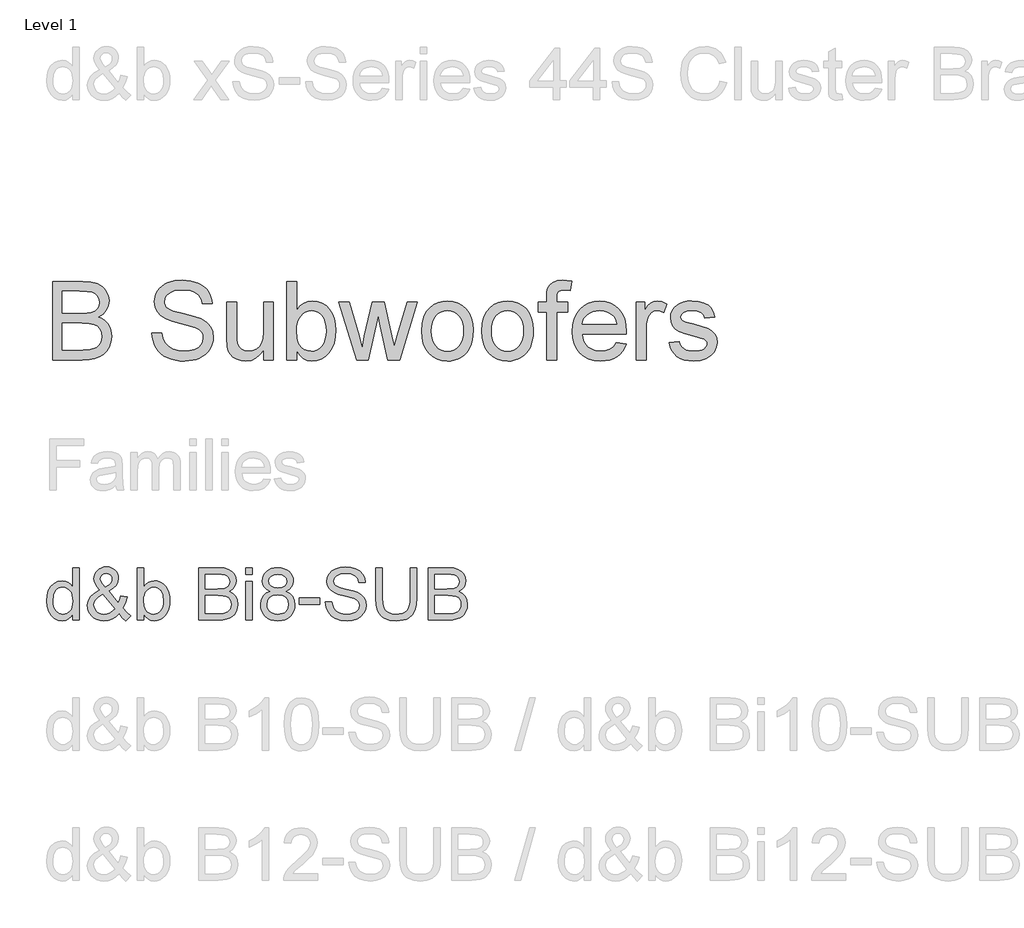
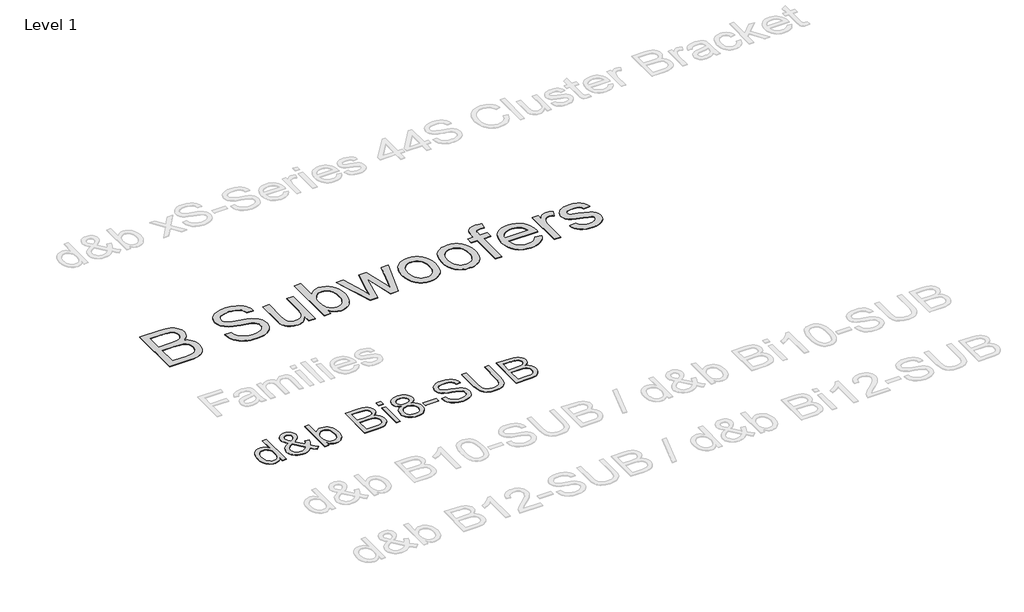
# One storey, part 5 of 55: 2 proxies.
"""IFC4 building model written with IfcOpenShell, lengths in millimetres."""

import ifcopenshell
import ifcopenshell.guid

model = None  # the IFC model being written
_history = None  # IfcOwnerHistory: only IFC2X3 demands one
_inside = {}  # id of a spatial element -> (the spatial element, [elements in it])
_under = {}  # id of a project, library or spatial element -> (it, [spatial elements below it])
_declared = {}  # id of a project -> (the project, [libraries it declares])
_typed = {}  # id of a type object -> (the type object, [elements of that type])
_made_of = {}  # id of a material, layer set ... -> (it, [elements and type objects made of it])


def new_model(schema):
    """Start an empty IFC model of exactly this schema.

    Asked for "IFC4X3", IfcOpenShell would pick the latest addendum, in which some entities
    have other attributes; the version numbers below select the first issue.
    IFC2X3 requires an IfcOwnerHistory on every rooted entity: one is made here for all.
    """
    global model, _history
    if schema == "IFC4X3":
        model = ifcopenshell.file(schema_version=(4, 3, 0, 0))
    else:
        model = ifcopenshell.file(schema=schema)
    _inside.clear()
    _under.clear()
    _declared.clear()
    _typed.clear()
    _made_of.clear()
    _history = None
    if model.schema == "IFC2X3":
        org = make("IfcOrganization", Name="unknown")
        user = make(
            "IfcPersonAndOrganization",
            ThePerson=make("IfcPerson", FamilyName="unknown"),
            TheOrganization=org,
        )
        app = make(
            "IfcApplication",
            ApplicationDeveloper=org,
            Version="unknown",
            ApplicationFullName="unknown",
            ApplicationIdentifier="unknown",
        )
        _history = make(
            "IfcOwnerHistory",
            OwningUser=user,
            OwningApplication=app,
            ChangeAction="ADDED",
            CreationDate=0,
        )
    return model


def make(cls, **values):
    """One entity of the class cls with the attributes given. An attribute that is None is left unset."""
    return model.create_entity(
        cls, **{name: value for name, value in values.items() if value is not None}
    )


def rooted(cls, **values):
    """An entity with a GlobalId (a new one), such as an element, a storey or a relation."""
    return make(cls, GlobalId=ifcopenshell.guid.new(), OwnerHistory=_history, **values)


def si_unit(unit_type, name, prefix=None):
    """IfcSIUnit, for example si_unit("LENGTHUNIT", "METRE", prefix="MILLI")."""
    return make("IfcSIUnit", UnitType=unit_type, Prefix=prefix, Name=name)


def assignment(units):
    """IfcUnitAssignment: the units of a project."""
    return None if units is None else make("IfcUnitAssignment", Units=units)


def point(xyz):
    """IfcCartesianPoint."""
    return None if xyz is None else make("IfcCartesianPoint", Coordinates=xyz)


def direction(xyz):
    """IfcDirection."""
    return None if xyz is None else make("IfcDirection", DirectionRatios=xyz)


def frame(location, z_axis=None, x_axis=None):
    """IfcAxis2Placement3D, a coordinate frame: its origin and axes. An axis left out is left unset."""
    return make(
        "IfcAxis2Placement3D",
        Location=point(location),
        Axis=direction(z_axis),
        RefDirection=direction(x_axis),
    )


def origin():
    """The frame at (0, 0, 0) with its axes left unset."""
    return frame((0.0, 0.0, 0.0))


def origin_with_axes():
    """The frame at (0, 0, 0) with the z axis (0, 0, 1) and the x axis (1, 0, 0) written out."""
    return frame((0.0, 0.0, 0.0), z_axis=(0.0, 0.0, 1.0), x_axis=(1.0, 0.0, 0.0))


def place(relative_to, where):
    """IfcLocalPlacement: puts the frame where relative to a parent placement (None: the world)."""
    return make(
        "IfcLocalPlacement", PlacementRelTo=relative_to, RelativePlacement=where
    )


def context(
    kind, dimensions, precision=None, world=None, true_north=None, identifier=None
):
    """IfcGeometricRepresentationContext, for example the 3D "Model" context."""
    return make(
        "IfcGeometricRepresentationContext",
        ContextIdentifier=identifier,
        ContextType=kind,
        CoordinateSpaceDimension=dimensions,
        Precision=precision,
        WorldCoordinateSystem=world,
        TrueNorth=true_north,
    )


def project(units=None, contexts=None):
    """IfcProject with its units and contexts."""
    return rooted(
        "IfcProject",
        Name="project",
        RepresentationContexts=contexts,
        UnitsInContext=assignment(units),
    )


def spatial(cls, under=None, at=None, **own):
    """A site, building, storey or space (cls), placed at a placement, below another one or the project."""
    s = rooted(cls, ObjectPlacement=at, **own)
    if under is not None:
        _under.setdefault(under.id(), (under, []))[1].append(s)
    return s


def polyline(points):
    """IfcPolyline through the points."""
    return make("IfcPolyline", Points=[point(p) for p in points])


def outline(outer, holes=None, kind="AREA"):
    """IfcArbitraryClosedProfileDef: a profile drawn as a closed curve; with holes, ...WithVoids."""
    if holes is None:
        return make("IfcArbitraryClosedProfileDef", ProfileType=kind, OuterCurve=outer)
    return make(
        "IfcArbitraryProfileDefWithVoids",
        ProfileType=kind,
        OuterCurve=outer,
        InnerCurves=holes,
    )


def extrude(swept, where, along, depth):
    """IfcExtrudedAreaSolid: the profile swept, set in the frame where, extruded along a direction by depth."""
    return make(
        "IfcExtrudedAreaSolid",
        SweptArea=swept,
        Position=where,
        ExtrudedDirection=direction(along),
        Depth=depth,
    )


def shape(context_of_items, identifier, shape_type, items):
    """IfcShapeRepresentation: the items that make up one representation, for example the "Body"."""
    return make(
        "IfcShapeRepresentation",
        ContextOfItems=context_of_items,
        RepresentationIdentifier=identifier,
        RepresentationType=shape_type,
        Items=items,
    )


def made_of(thing, what):
    """Note that an element or type object is made of a material, layer set ...; save() writes the relation."""
    if what is not None:
        _made_of.setdefault(what.id(), (what, []))[1].append(thing)
    return thing


def element(
    cls,
    number,
    at=None,
    inside=None,
    cuts=None,
    type_object=None,
    material=None,
    context=None,
    identifier="Body",
    shape_type=None,
    held_by="IfcProductDefinitionShape",
    body=None,
    shapes=None,
    **own,
):
    """One element of the class cls, such as IfcWall. Its Tag is "e" and its number.

    at: its placement. inside: the storey or other place that contains it. cuts: it is an
    opening in that element (IfcRelVoidsElement). A single representation is given by context,
    identifier, shape_type and body (its items); several are given by shapes. held_by: the class
    of the entity that holds the representations. save() writes the other relations.
    """
    e = rooted(cls, Tag="e%d" % number, ObjectPlacement=at, **own)
    if body is not None:
        shapes = [shape(context, identifier, shape_type, body)]
    if shapes is not None:
        e.Representation = make(held_by, Representations=shapes)
    if inside is not None:
        _inside.setdefault(inside.id(), (inside, []))[1].append(e)
    if cuts is not None:
        rooted(
            "IfcRelVoidsElement", RelatingBuildingElement=cuts, RelatedOpeningElement=e
        )
    if type_object is not None:
        _typed.setdefault(type_object.id(), (type_object, []))[1].append(e)
    return made_of(e, material)


def aggregate(whole, parts):
    """IfcRelAggregates: a whole, such as a stair, and the parts it consists of."""
    return rooted("IfcRelAggregates", RelatingObject=whole, RelatedObjects=parts)


def save(model, path):
    """Write the relations noted so far, then the file.

    IfcRelAggregates (storeys below a building ...), IfcRelContainedInSpatialStructure (elements
    in a storey), IfcRelDefinesByType, IfcRelAssociatesMaterial and IfcRelDeclares: one each for
    every whole, place, type object, material and project.
    """
    for whole, parts in _under.values():
        aggregate(whole, parts)
    for where, things in _inside.values():
        rooted(
            "IfcRelContainedInSpatialStructure",
            RelatedElements=things,
            RelatingStructure=where,
        )
    for kind, things in _typed.values():
        rooted("IfcRelDefinesByType", RelatedObjects=things, RelatingType=kind)
    for what, things in _made_of.values():
        rooted("IfcRelAssociatesMaterial", RelatedObjects=things, RelatingMaterial=what)
    for by, libraries in _declared.values():
        rooted("IfcRelDeclares", RelatingContext=by, RelatedDefinitions=libraries)
    model.write(path)


model = new_model("IFC4")

# Units and contexts
model_context = context("Model", 3, world=origin())
ifc_project = project(units=[si_unit("LENGTHUNIT", "METRE", prefix="MILLI")], contexts=[model_context])

# Site, building, storey
site = spatial("IfcSite", under=ifc_project)
building = spatial("IfcBuilding", under=site)
storey = spatial("IfcBuildingStorey", under=building, Name="Level 1", Elevation=0.0)

# Proxies
placement = place(None, origin())
element("IfcBuildingElementProxy", 1, Name="400mm Arial", ObjectType="400mm Arial", at=placement, inside=storey, context=model_context, shape_type="SweptSolid", body=[
    extrude(outline(polyline([(-20879.8211974, -36148.6945164), (-20879.8211974, -36101.3113154), (-20894.8491769, -36124.7883181), (-20913.0532043, -36141.5576057), (-20934.4332796, -36151.6191783), (-20958.9894028, -36154.9730358), (-20991.4611202, -36150.1169935), (-21021.1859854, -36135.5488665), (-21046.3491139, -36112.2864616), (-21065.1356211, -36081.3475858), (-21076.8342686, -36043.9830379), (-21080.7338177, -36001.4436165), (-21077.1408369, -35959.4314926), (-21066.3618945, -35921.4905962), (-21048.4092531, -35889.7791682), (-21023.2951755, -35866.4554497), (-20992.9203855, -35852.1080519), (-20959.1856065, -35847.325586), (-20934.6110892, -35850.7468885), (-20912.8815261, -35861.0107962), (-20894.4629008, -35876.7438829), (-20879.8211974, -35896.5727224), (-20879.8211974, -35746.8692758), (-20829.5930424, -35746.8692758), (-20829.5930424, -36148.6945164), (-20879.8211974, -36148.6945164)]), holes=[polyline([(-21030.5056627, -36001.2474128), (-21029.089317, -36025.6042665), (-21024.8402799, -36046.6808392), (-21017.7585515, -36064.4771307), (-21007.8441318, -36078.9931411), (-20983.1469871, -36098.3069458), (-20969.2717046, -36103.135397), (-20954.3786151, -36104.7448807), (-20939.415015, -36103.2089734), (-20925.6225058, -36098.6012514), (-20901.5507606, -36080.1703635), (-20892.0440767, -36066.2613584), (-20885.2535882, -36049.1088603), (-20879.8211974, -36005.0733855), (-20885.3516901, -35956.9298951), (-20892.2648059, -35938.3947739), (-20901.9431681, -35923.5507354), (-20913.6448812, -35912.1770504), (-20926.6280499, -35904.0529896), (-20940.8926743, -35899.1785532), (-20956.4387543, -35897.5537411), (-20971.6261493, -35899.1141738), (-20985.5014319, -35903.7954722), (-20998.064602, -35911.5976362), (-21009.3156597, -35922.5206658), (-21018.586286, -35936.8036843), (-21025.2081619, -35954.6858149), (-21030.5056627, -36001.2474128)])]), origin_with_axes(), (0.0, 0.0, 1.0), 5.0),
    extrude(outline(polyline([(-20523.809528, -36099.0549725), (-20549.3405384, -36123.5191252), (-20577.0788409, -36140.99352), (-20607.0734862, -36151.4781569), (-20639.3735254, -36154.9730358), (-20668.6814577, -36152.3855991), (-20694.8010793, -36144.623289), (-20717.7323904, -36131.6861055), (-20737.4753908, -36113.5740486), (-20750.308341, -36096.2038871), (-20759.4747341, -36077.8404442), (-20764.9745699, -36058.4837198), (-20766.8078485, -36038.1337141), (-20760.9094739, -36002.9396699), (-20743.2143499, -35971.3263438), (-20713.796053, -35943.3182613), (-20672.7281596, -35918.9399477), (-20694.6416638, -35890.5885086), (-20707.7995765, -35868.1231814), (-20714.3846642, -35848.9442668), (-20716.5796934, -35830.4520651), (-20714.8506481, -35812.8979626), (-20709.6635119, -35796.5333452), (-20701.018285, -35781.3582129), (-20688.9149674, -35767.3725657), (-20674.1935562, -35755.6555241), (-20657.6940487, -35747.2862088), (-20639.4164449, -35742.2646195), (-20619.3607448, -35740.5907564), (-20600.212487, -35742.1910431), (-20582.8913764, -35746.9919032), (-20567.397413, -35754.9933366), (-20553.7305969, -35766.1953433), (-20542.5715097, -35779.6414302), (-20534.6007332, -35794.3751041), (-20529.8182672, -35810.396365), (-20528.2241119, -35827.7052129), (-20532.9452642, -35855.68877), (-20547.108721, -35881.563137), (-20570.7144823, -35905.3283139), (-20603.7625482, -35926.9843007), (-20531.069066, -36017.5323224), (-20518.6837055, -35991.6579554), (-20509.3885538, -35961.9085647), (-20459.1603987, -35972.7978718), (-20474.6114425, -36019.3226815), (-20494.6732739, -36055.4977443), (-20466.1256311, -36088.8033276), (-20434.0463211, -36116.3209009), (-20471.7174374, -36154.9730358), (-20497.3465498, -36131.52669), (-20523.809528, -36099.0549725)]), holes=[polyline([(-20557.4584678, -36062.8553842), (-20647.1235727, -35950.9211558), (-20681.3733865, -35972.7733463), (-20702.305872, -35993.0068561), (-20713.0112381, -36012.3329235), (-20716.5796934, -36031.4627873), (-20711.6991256, -36055.1543878), (-20697.0574222, -36079.7289051), (-20686.2784798, -36090.6733944), (-20673.4639236, -36098.4908868), (-20658.6137537, -36103.1813823), (-20641.7279702, -36104.7448807), (-20619.0051256, -36101.8263502), (-20595.5710425, -36093.0707588), (-20574.1480476, -36079.6798541), (-20557.4584678, -36062.8553842)]), polyline([(-20629.1709314, -35895.2973981), (-20602.9041569, -35878.6323438), (-20587.8700461, -35864.1500559), (-20580.8067117, -35850.0601755), (-20578.452267, -35834.5723435), (-20581.5547385, -35817.0243723), (-20590.862153, -35803.0325938), (-20604.829406, -35793.8723321), (-20621.9113933, -35790.8189115), (-20639.3612626, -35793.8478066), (-20653.6473468, -35802.9344919), (-20663.1754905, -35816.3867102), (-20666.3515384, -35832.5122043), (-20662.0350563, -35850.9063041), (-20648.9875082, -35871.360543), (-20629.1709314, -35895.2973981)])]), origin_with_axes(), (0.0, 0.0, 1.0), 5.0),
    extrude(outline(polyline([(-20333.590011, -36148.6945164), (-20383.8181661, -36148.6945164), (-20383.8181661, -35746.8692758), (-20333.590011, -35746.8692758), (-20333.590011, -35895.8860093), (-20317.0721094, -35874.6408241), (-20298.4204923, -35859.4656918), (-20277.6351595, -35850.3606124), (-20254.7161112, -35847.325586), (-20228.8417442, -35850.0601755), (-20204.3898543, -35858.263944), (-20182.758393, -35871.4218567), (-20165.3453119, -35889.0188788), (-20151.6968898, -35910.883332), (-20141.3594058, -35936.8435381), (-20134.8478945, -35965.8203766), (-20132.6773907, -35996.734727), (-20134.9245365, -36032.4070178), (-20141.6659741, -36063.7873519), (-20152.9017034, -36090.8757295), (-20168.6317244, -36113.6721505), (-20187.5132678, -36131.7412878), (-20208.2035643, -36144.6478145), (-20230.702614, -36152.3917305), (-20255.0104168, -36154.9730358), (-20278.6836232, -36151.6437038), (-20299.671291, -36141.6557076), (-20317.9734203, -36125.0090473), (-20333.590011, -36101.7037229), (-20333.590011, -36148.6945164)]), holes=[polyline([(-20333.590011, -35999.0891717), (-20330.1564457, -36040.9786682), (-20319.8557498, -36069.3301073), (-20307.6849872, -36084.8240707), (-20293.5399244, -36095.8911874), (-20277.4205617, -36102.5314574), (-20259.3268989, -36104.7448807), (-20244.3050508, -36103.1139372), (-20230.3377977, -36098.2211067), (-20217.4251396, -36090.0663891), (-20205.5670767, -36078.6497845), (-20195.6526569, -36064.0019498), (-20188.5709285, -36046.1535416), (-20184.3218914, -36025.1045601), (-20182.9055458, -36000.8550053), (-20188.3379366, -35954.8942814), (-20195.1284251, -35937.1010555), (-20204.6351089, -35922.7659205), (-20216.0670419, -35911.735592), (-20228.6332778, -35903.8567859), (-20242.3338164, -35899.1295023), (-20257.1686579, -35897.5537411), (-20272.190506, -35899.1846846), (-20286.1577591, -35904.0775151), (-20299.0704171, -35912.2322327), (-20310.9284801, -35923.6488372), (-20320.8428999, -35938.1495192), (-20327.9246283, -35955.556469), (-20332.1736653, -35975.8696865), (-20333.590011, -35999.0891717)])]), origin_with_axes(), (0.0, 0.0, 1.0), 5.0),
    extrude(outline(polyline([(-19912.9292122, -36148.6945164), (-19912.9292122, -35746.8692758), (-19759.5959966, -35746.8692758), (-19717.4244573, -35749.8245945), (-19684.4990187, -35758.6905506), (-19659.2623138, -35773.6878733), (-19640.1569755, -35795.0372917), (-19628.1272343, -35820.1513693), (-19624.1173206, -35846.4426692), (-19627.4895722, -35870.6370417), (-19637.606327, -35893.3844118), (-19654.5411616, -35913.2868277), (-19678.3676521, -35928.946338), (-19649.9058484, -35943.8087706), (-19628.875261, -35966.4212506), (-19615.8890266, -35995.2877244), (-19611.5602818, -36028.9121388), (-19614.5156005, -36056.9324841), (-19623.3815566, -36082.9172157), (-19636.6130457, -36105.0146609), (-19652.6649634, -36121.3731469), (-19672.3221247, -36133.2189472), (-19696.3693444, -36141.7783349), (-19725.5914376, -36146.965471), (-19760.773219, -36148.6945164), (-19912.9292122, -36148.6945164)]), holes=[polyline([(-19862.7010572, -36098.4663614), (-19759.6940985, -36098.4663614), (-19722.4153897, -36096.504324), (-19690.87564, -36085.5659661), (-19679.2996198, -36076.1359242), (-19669.9799426, -36063.2477917), (-19663.8363133, -36047.4779168), (-19661.7884369, -36029.4026481), (-19664.1919326, -36008.4088489), (-19671.4024197, -35990.3581057), (-19683.9962466, -35976.2436998), (-19702.5497619, -35967.0589127), (-19728.8287991, -35962.0189293), (-19764.5991918, -35960.3389349), (-19862.7010572, -35960.3389349), (-19862.7010572, -36098.4663614)]), polyline([(-19862.7010572, -35910.1107798), (-19770.975813, -35910.1107798), (-19717.4121945, -35905.7942977), (-19698.6624755, -35898.3508187), (-19685.1857318, -35887.2039943), (-19677.0555397, -35872.5255026), (-19674.3454756, -35854.4870222), (-19676.8715987, -35836.9758392), (-19684.4499678, -35821.7209991), (-19696.7372264, -35809.8138852), (-19713.3900181, -35802.3458807), (-19738.945554, -35798.4095434), (-19777.9410455, -35797.0974309), (-19862.7010572, -35797.0974309), (-19862.7010572, -35910.1107798)])]), origin_with_axes(), (0.0, 0.0, 1.0), 5.0),
    extrude(outline(polyline([(-19548.7750879, -36148.6945164), (-19548.7750879, -35853.6041054), (-19498.5469329, -35853.6041054), (-19498.5469329, -36148.6945164), (-19548.7750879, -36148.6945164)])), origin_with_axes(), (0.0, 0.0, 1.0), 5.0),
    extrude(outline(polyline([(-19548.7750879, -35797.0974309), (-19548.7750879, -35746.8692758), (-19498.5469329, -35746.8692758), (-19498.5469329, -35797.0974309), (-19548.7750879, -35797.0974309)])), origin_with_axes(), (0.0, 0.0, 1.0), 5.0),
    extrude(outline(polyline([(-19362.5777475, -35927.3767081), (-19389.4699213, -35914.1329563), (-19408.3422677, -35896.1803149), (-19419.4890921, -35873.886666), (-19423.2047003, -35847.6198916), (-19421.1813493, -35827.1349958), (-19415.1112964, -35808.35462), (-19404.9945415, -35791.278764), (-19390.8310847, -35775.907428), (-19373.3015076, -35763.2032364), (-19353.086392, -35754.1288139), (-19330.1857378, -35748.6841603), (-19304.599545, -35746.8692758), (-19278.8907249, -35748.7270799), (-19255.8183925, -35754.3004921), (-19235.3825476, -35763.5895125), (-19217.5831904, -35776.594141), (-19203.1622162, -35792.265914), (-19192.8615203, -35809.5563678), (-19186.6811028, -35828.4655024), (-19184.6209637, -35848.9933177), (-19188.2875209, -35874.4139636), (-19199.2871925, -35896.3274677), (-19217.742606, -35914.1697445), (-19243.7763885, -35927.3767081), (-19212.8620382, -35943.3059985), (-19190.3599228, -35966.7646071), (-19176.6379244, -35996.6243624), (-19172.0639249, -36031.7570929), (-19174.3325305, -36056.8098568), (-19181.1383474, -36079.777956), (-19192.4813756, -36100.6613906), (-19208.3616151, -36119.4601605), (-19227.9452, -36134.9970435), (-19250.3982644, -36146.094817), (-19275.7208084, -36152.7534811), (-19303.912832, -36154.9730358), (-19332.1048555, -36152.7442841), (-19357.4273995, -36146.0580288), (-19379.880464, -36134.91427), (-19399.4640488, -36119.3130077), (-19415.3442883, -36100.3824134), (-19426.6873165, -36079.2506585), (-19433.4931334, -36055.9177429), (-19435.761739, -36030.3836668), (-19431.0037986, -35993.8897729), (-19416.7299771, -35963.8706021), (-19393.6760388, -35941.3562239), (-19362.5777475, -35927.3767081)]), holes=[polyline([(-19385.533584, -36028.6178332), (-19383.4366566, -36047.8335361), (-19377.1458745, -36066.4361023), (-19365.5330661, -36082.6596983), (-19347.4700602, -36094.7384905), (-19325.8385989, -36102.2432832), (-19303.5204245, -36104.7448807), (-19269.3319244, -36099.4841682), (-19255.4382477, -36092.9082775), (-19243.6782866, -36083.7020306), (-19227.6386316, -36059.8019637), (-19222.29208, -36030.187463), (-19227.8103099, -36000.0701904), (-19244.3649997, -35975.6428259), (-19256.4437918, -35966.2005214), (-19270.6072487, -35959.4560181), (-19305.1881562, -35954.0604155), (-19338.8984097, -35959.3824417), (-19352.6357365, -35966.0349745), (-19364.2945301, -35975.3485203), (-19380.2238205, -35999.3099009), (-19385.533584, -36028.6178332)]), polyline([(-19372.9765452, -35849.0914196), (-19368.525173, -35871.0171865), (-19355.1710566, -35888.5283694), (-19333.3066034, -35900.0062877), (-19303.3242208, -35903.8322604), (-19274.0408139, -35900.0308132), (-19252.5074545, -35888.6264713), (-19239.2637027, -35871.7038995), (-19234.8491187, -35851.3477625), (-19239.4108555, -35830.2190732), (-19253.0960657, -35812.7446784), (-19274.9237307, -35801.0092428), (-19303.912832, -35797.0974309), (-19333.0858742, -35800.9234037), (-19354.876751, -35812.4013219), (-19368.4515966, -35829.2257918), (-19372.9765452, -35849.0914196)])]), origin_with_axes(), (0.0, 0.0, 1.0), 5.0),
    extrude(outline(polyline([(-19140.671328, -36029.4026481), (-19140.671328, -35979.174493), (-18983.7083434, -35979.174493), (-18983.7083434, -36029.4026481), (-19140.671328, -36029.4026481)])), origin_with_axes(), (0.0, 0.0, 1.0), 5.0),
    extrude(outline(polyline([(-18939.7587077, -36010.56709), (-18889.5305526, -36010.56709), (-18883.767068, -36038.4402825), (-18873.3437448, -36060.844296), (-18857.0833606, -36078.6252591), (-18833.8086931, -36092.6293004), (-18805.3591521, -36101.7159856), (-18773.5741477, -36104.7448807), (-18745.5905906, -36102.4517496), (-18721.0896497, -36095.5723563), (-18701.2362847, -36084.6830493), (-18687.1954552, -36070.3601769), (-18678.844534, -36053.9158517), (-18676.0608935, -36036.6621862), (-18678.1455582, -36019.849979), (-18684.3995521, -36005.3186402), (-18697.1037436, -35992.9210169), (-18718.5390012, -35982.5099565), (-18791.6739419, -35963.3310418), (-18839.6825422, -35950.639113), (-18870.4006888, -35938.5603208), (-18895.4044018, -35921.6622745), (-18913.1240512, -35901.1835101), (-18923.6822645, -35877.565486), (-18927.2016689, -35851.2496606), (-18922.8483986, -35821.8313637), (-18909.7885878, -35794.3996296), (-18888.3655929, -35771.1494875), (-18858.9227706, -35754.2759667), (-18823.5815736, -35744.012059), (-18784.4634548, -35740.5907564), (-18742.0834489, -35744.1714745), (-18705.0009438, -35754.9136288), (-18674.5403146, -35772.59649), (-18652.0259365, -35796.999329), (-18637.7766406, -35826.6015669), (-18632.1112578, -35859.8826247), (-18682.3394129, -35859.8826247), (-18691.5609883, -35829.9125049), (-18699.9241723, -35818.0544419), (-18710.7889539, -35808.2810436), (-18740.8326501, -35795.1844445), (-18782.5014175, -35790.8189115), (-18825.1512034, -35795.1353936), (-18841.4545072, -35800.5309962), (-18854.4100848, -35808.0848398), (-18871.3326566, -35827.1411272), (-18876.9735138, -35849.7781326), (-18872.9758628, -35869.0796746), (-18860.9829098, -35884.6042948), (-18832.6314707, -35898.4857088), (-18778.9697503, -35912.6614283), (-18723.5912473, -35926.1259093), (-18690.0894603, -35937.8736077), (-18661.4559783, -35956.0960292), (-18641.479986, -35978.5858819), (-18629.7445503, -36005.097911), (-18625.8327384, -36035.3868619), (-18630.3331615, -36066.3502632), (-18643.8344307, -36095.4742545), (-18665.7847231, -36120.5392811), (-18695.6322157, -36139.3257883), (-18731.5252357, -36151.0612239), (-18771.6121104, -36154.9730358), (-18820.8224586, -36150.7546556), (-18861.3262663, -36138.099515), (-18893.5895173, -36116.958563), (-18918.0781954, -36087.2827487), (-18933.7990193, -36051.1322113), (-18939.7587077, -36010.56709)])), origin_with_axes(), (0.0, 0.0, 1.0), 5.0),
    extrude(outline(polyline([(-18286.7926917, -35746.8692758), (-18236.5645366, -35746.8692758), (-18236.5645366, -35978.6839837), (-18239.9735764, -36032.9711035), (-18250.2006959, -36074.7747609), (-18258.3860703, -36091.7279895), (-18269.3060342, -36107.0257491), (-18299.3497305, -36132.6548614), (-18318.4918569, -36142.4190627), (-18340.4053611, -36149.3934922), (-18392.5465026, -36154.9730358), (-18443.5472098, -36150.1169935), (-18484.3207976, -36135.5488665), (-18500.8754874, -36124.7484642), (-18514.8795287, -36111.7714268), (-18526.3329215, -36096.6177543), (-18535.2356658, -36079.2874467), (-18546.6767958, -36035.7179557), (-18550.4905058, -35978.6839837), (-18550.4905058, -35746.8692758), (-18500.2623508, -35746.8692758), (-18500.2623508, -35976.9181501), (-18497.7852787, -36022.057271), (-18490.3540624, -36053.4866561), (-18476.8895813, -36075.2530075), (-18456.3127151, -36091.403027), (-18429.4818549, -36101.4094173), (-18397.2553921, -36104.7448807), (-18369.572272, -36103.0955431), (-18346.1688457, -36098.1475303), (-18327.0451133, -36089.9008422), (-18312.2010748, -36078.3554789), (-18301.0849072, -36062.1196202), (-18293.1447875, -36039.8014459), (-18288.3807156, -36011.4009558), (-18286.7926917, -35976.9181501), (-18286.7926917, -35746.8692758)])), origin_with_axes(), (0.0, 0.0, 1.0), 5.0),
    extrude(outline(polyline([(-18148.6652652, -36148.6945164), (-18148.6652652, -35746.8692758), (-17995.3320496, -35746.8692758), (-17953.1605103, -35749.8245945), (-17920.2350717, -35758.6905506), (-17894.9983668, -35773.6878733), (-17875.8930285, -35795.0372917), (-17863.8632873, -35820.1513693), (-17859.8533736, -35846.4426692), (-17863.2256252, -35870.6370417), (-17873.34238, -35893.3844118), (-17890.2772146, -35913.2868277), (-17914.1037051, -35928.946338), (-17885.6419014, -35943.8087706), (-17864.611314, -35966.4212506), (-17851.6250796, -35995.2877244), (-17847.2963348, -36028.9121388), (-17850.2516535, -36056.9324841), (-17859.1176096, -36082.9172157), (-17872.3490987, -36105.0146609), (-17888.4010164, -36121.3731469), (-17908.0581777, -36133.2189472), (-17932.1053974, -36141.7783349), (-17961.3274906, -36146.965471), (-17996.509272, -36148.6945164), (-18148.6652652, -36148.6945164)]), holes=[polyline([(-18098.4371102, -36098.4663614), (-17995.4301515, -36098.4663614), (-17958.1514427, -36096.504324), (-17926.6116929, -36085.5659661), (-17915.0356728, -36076.1359242), (-17905.7159956, -36063.2477917), (-17899.5723663, -36047.4779168), (-17897.5244899, -36029.4026481), (-17899.9279856, -36008.4088489), (-17907.1384727, -35990.3581057), (-17919.7322996, -35976.2436998), (-17938.2858149, -35967.0589127), (-17964.5648521, -35962.0189293), (-18000.3352448, -35960.3389349), (-18098.4371102, -35960.3389349), (-18098.4371102, -36098.4663614)]), polyline([(-18098.4371102, -35910.1107798), (-18006.711866, -35910.1107798), (-17953.1482475, -35905.7942977), (-17934.3985285, -35898.3508187), (-17920.9217848, -35887.2039943), (-17912.7915927, -35872.5255026), (-17910.0815286, -35854.4870222), (-17912.6076517, -35836.9758392), (-17920.1860208, -35821.7209991), (-17932.4732794, -35809.8138852), (-17949.1260711, -35802.3458807), (-17974.681607, -35798.4095434), (-18013.6770985, -35797.0974309), (-18098.4371102, -35797.0974309), (-18098.4371102, -35910.1107798)])]), origin_with_axes(), (0.0, 0.0, 1.0), 5.0),
])
element("IfcBuildingElementProxy", 2, Name="600mm Arial", ObjectType="600mm Arial", at=placement, inside=storey, context=model_context, shape_type="SweptSolid", body=[
    extrude(outline(polyline([(-21033.6449223, -34148.6945164), (-21033.6449223, -33545.9566555), (-20803.645099, -33545.9566555), (-20740.3877899, -33550.3896336), (-20690.999632, -33563.6885677), (-20670.9224722, -33573.7455417), (-20653.1445747, -33586.1845517), (-20637.6659398, -33601.0055976), (-20624.4865673, -33618.2086794), (-20606.4419554, -33655.8797957), (-20600.4270848, -33695.3167456), (-20605.4854623, -33731.6083044), (-20620.6605946, -33765.7293594), (-20646.0628463, -33795.5829834), (-20681.8025822, -33819.0722487), (-20659.0628763, -33828.7659393), (-20639.1098766, -33841.3658977), (-20621.943583, -33856.8721238), (-20607.5639955, -33875.2846176), (-20596.2010404, -33896.0423592), (-20588.0846439, -33918.5843284), (-20583.214806, -33942.9105254), (-20581.5915267, -33969.02095), (-20586.0245047, -34011.0514679), (-20599.3234388, -34050.0285653), (-20619.1706725, -34083.1747331), (-20643.2485491, -34107.7124622), (-20672.734291, -34125.4811625), (-20708.8051206, -34138.3202442), (-20752.6382603, -34146.1009484), (-20805.4109325, -34148.6945164), (-21033.6449223, -34148.6945164)]), holes=[polyline([(-20958.3026897, -33790.8189115), (-20820.7148235, -33790.8189115), (-20772.5958586, -33789.2002307), (-20740.3693958, -33784.3441884), (-20712.2448173, -33773.1789699), (-20692.0297016, -33756.4587332), (-20679.8344135, -33734.4409958), (-20675.7693174, -33707.383275), (-20679.558502, -33681.1165006), (-20690.9260556, -33658.2342405), (-20709.3569436, -33640.3735696), (-20734.3361311, -33629.1715628), (-20772.669435, -33623.2670568), (-20831.1626722, -33621.2988881), (-20958.3026897, -33621.2988881), (-20958.3026897, -33790.8189115)]), polyline([(-20958.3026897, -34073.3522838), (-20803.7922518, -34073.3522838), (-20747.8741885, -34070.4092279), (-20721.9201137, -34063.8793224), (-20700.5645639, -34054.0016909), (-20683.2005337, -34039.8566282), (-20669.2210179, -34020.5244293), (-20660.0055739, -33996.869617), (-20656.9337593, -33969.756714), (-20660.5390028, -33938.2660152), (-20671.3547335, -33911.1899003), (-20690.2454739, -33890.0182915), (-20718.0757469, -33876.2411108), (-20757.4943027, -33868.6811358), (-20811.1498917, -33866.1611441), (-20958.3026897, -33866.1611441), (-20958.3026897, -34073.3522838)])]), origin_with_axes(), (0.0, 0.0, 1.0), 5.0),
    extrude(outline(polyline([(-20270.8048171, -33941.5033767), (-20195.4625845, -33941.5033767), (-20186.8173576, -33983.3131655), (-20171.1823729, -34016.9191858), (-20146.7917966, -34043.5906304), (-20111.8797952, -34064.5966923), (-20069.2054838, -34078.2267203), (-20021.5279772, -34082.7700629), (-19979.5526416, -34079.3303662), (-19942.8012302, -34069.0112763), (-19913.0211827, -34052.6773157), (-19891.9599385, -34031.1930072), (-19879.4335566, -34006.5265194), (-19875.2580959, -33980.646021), (-19878.3850929, -33955.4277103), (-19887.7660838, -33933.630702), (-19906.8223711, -33915.0342672), (-19938.9752575, -33899.4176765), (-20048.6776685, -33870.6493045), (-20120.690569, -33851.6114112), (-20166.7677889, -33833.493223), (-20204.2733583, -33808.1461535), (-20230.8528325, -33777.4280069), (-20246.6901524, -33742.0009708), (-20251.969259, -33702.5272327), (-20250.3367826, -33680.0910295), (-20245.4393536, -33658.3997874), (-20237.2769718, -33637.4535063), (-20225.8496373, -33617.2521862), (-20211.2861089, -33598.6189631), (-20193.7151451, -33582.3769731), (-20173.136746, -33568.5262159), (-20149.5509115, -33557.0666918), (-20096.539116, -33541.6708303), (-20037.8619378, -33536.5388765), (-19974.291929, -33541.9099536), (-19918.6681714, -33558.023185), (-19894.3327774, -33570.0253351), (-19872.9772276, -33584.5474768), (-19854.6015219, -33601.5896103), (-19839.2056604, -33621.1517353), (-19826.9092047, -33642.663635), (-19817.8317165, -33665.5550922), (-19811.9731957, -33689.8261068), (-19809.3336424, -33715.4766789), (-19884.675875, -33715.4766789), (-19889.7158583, -33691.4355905), (-19898.508238, -33670.5214991), (-19911.0530141, -33652.7344046), (-19927.3501865, -33638.0743071), (-19947.7032578, -33626.614783), (-19972.4157309, -33618.4294086), (-20001.4876055, -33613.5181839), (-20034.9188818, -33611.8811091), (-20069.4170159, -33613.4997898), (-20098.8935608, -33618.3558322), (-20123.3485164, -33626.4492361), (-20142.7818828, -33637.7800015), (-20157.5891331, -33651.4008324), (-20168.1657405, -33666.3644326), (-20174.5117049, -33682.670802), (-20176.6270264, -33700.3199407), (-20175.1279073, -33715.5042701), (-20170.6305499, -33729.2722537), (-20163.1349542, -33741.6238917), (-20152.6411203, -33752.559184), (-20136.1232187, -33762.9150622), (-20110.1139617, -33773.3813049), (-20029.6213811, -33794.6448843), (-19946.5536266, -33814.8416058), (-19896.3009461, -33832.4631534), (-19853.3507231, -33859.7967856), (-19836.7454496, -33875.8640318), (-19823.3867346, -33893.5315646), (-19813.1182284, -33912.7074136), (-19805.7835811, -33933.2996083), (-19799.9158633, -33978.7330347), (-19801.603522, -34002.300475), (-19806.6664979, -34025.1781365), (-19815.1047912, -34047.3660194), (-19826.9184018, -34068.8641235), (-19841.900396, -34088.8401158), (-19859.8438403, -34106.4616634), (-19880.7487347, -34121.7287662), (-19904.6150791, -34134.6414242), (-19930.7484964, -34144.9099304), (-19958.4546091, -34152.2445777), (-20018.5849213, -34158.1122955), (-20057.1251588, -34156.5304029), (-20092.4004436, -34151.7847252), (-20124.4107757, -34143.8752623), (-20153.1561551, -34132.8020142), (-20178.8113257, -34118.5465869), (-20201.5510316, -34101.0905863), (-20221.3752726, -34080.4340122), (-20238.2840488, -34056.5768648), (-20251.9048796, -34030.2916963), (-20261.8652847, -34002.3510587), (-20268.1652638, -33972.7549522), (-20270.8048171, -33941.5033767)])), origin_with_axes(), (0.0, 0.0, 1.0), 5.0),
    extrude(outline(polyline([(-19413.7869212, -34148.6945164), (-19413.7869212, -34072.6165198), (-19441.046977, -34110.0209217), (-19472.7951932, -34136.7383516), (-19509.0315697, -34152.7688095), (-19549.7561066, -34158.1122955), (-19586.4523356, -34154.3598992), (-19620.6101789, -34143.1027101), (-19649.2681863, -34126.1801383), (-19669.4649078, -34105.4315938), (-19683.0581476, -34080.2316771), (-19691.9057095, -34049.9549889), (-19696.3202935, -33979.910257), (-19696.3202935, -33706.0588998), (-19620.9780609, -33706.0588998), (-19620.9780609, -33944.4464327), (-19619.8376267, -33992.1239393), (-19616.4163241, -34021.2601933), (-19605.4350466, -34046.8831743), (-19586.6178825, -34066.3625259), (-19561.2156308, -34078.6681786), (-19530.4790901, -34082.7700629), (-19497.9767158, -34078.5762081), (-19467.5712689, -34065.9946439), (-19442.5001109, -34046.1841985), (-19426.0006034, -34020.3037001), (-19416.8403417, -33984.8582699), (-19413.7869212, -33936.3530288), (-19413.7869212, -33706.0588998), (-19338.4446886, -33706.0588998), (-19338.4446886, -34148.6945164), (-19413.7869212, -34148.6945164)])), origin_with_axes(), (0.0, 0.0, 1.0), 5.0),
    extrude(outline(polyline([(-19159.5068861, -34148.6945164), (-19234.8491187, -34148.6945164), (-19234.8491187, -33545.9566555), (-19159.5068861, -33545.9566555), (-19159.5068861, -33769.4817558), (-19134.7300337, -33737.613978), (-19106.752608, -33714.8512795), (-19075.5746089, -33701.1936604), (-19041.1960365, -33696.6411208), (-19002.384486, -33700.743005), (-18965.7066511, -33713.0486577), (-18933.2594591, -33732.7855268), (-18907.1398374, -33759.1810599), (-18886.6672044, -33791.9777398), (-18871.1609783, -33830.918049), (-18861.3937113, -33874.3833067), (-18858.1379557, -33920.7548322), (-18861.5086744, -33974.2632684), (-18871.6208308, -34021.3337697), (-18888.4744247, -34061.9663361), (-18912.0694562, -34096.1609675), (-18940.3917713, -34123.2646735), (-18971.4272161, -34142.6244635), (-19005.1757906, -34154.2403375), (-19041.6374949, -34158.1122955), (-19077.1473044, -34153.1182974), (-19108.6288062, -34138.1363032), (-19136.0820001, -34113.1663127), (-19159.5068861, -34078.2083262), (-19159.5068861, -34148.6945164)]), holes=[polyline([(-19159.5068861, -33924.2864994), (-19154.3565382, -33987.1207441), (-19147.9186033, -34010.9227092), (-19138.9054944, -34029.6479028), (-19120.6493504, -34052.8888478), (-19099.4317563, -34069.4895229), (-19075.2527122, -34079.4499279), (-19048.112218, -34082.7700629), (-19025.5794458, -34080.3236476), (-19004.6285661, -34072.9844018), (-18985.2595791, -34060.7523255), (-18967.4724846, -34043.6274186), (-18952.600855, -34021.6556664), (-18941.9782624, -33994.8830542), (-18935.6047068, -33963.309582), (-18933.4801883, -33926.9352497), (-18935.5173348, -33889.8711387), (-18941.6287745, -33857.9941638), (-18951.8145072, -33831.3043251), (-18966.0745331, -33809.8016225), (-18983.2224326, -33793.2561297), (-19002.0717863, -33781.4379206), (-19022.6225942, -33774.3469952), (-19044.8748564, -33771.9833534), (-19067.4076286, -33774.4297686), (-19088.3585082, -33781.7690144), (-19107.7274953, -33794.0010908), (-19125.5145898, -33811.1259977), (-19140.3862194, -33832.8770206), (-19151.008812, -33858.9874452), (-19157.3823676, -33889.4572715), (-19159.5068861, -33924.2864994)])]), origin_with_axes(), (0.0, 0.0, 1.0), 5.0),
    extrude(outline(polyline([(-18699.3600865, -34148.6945164), (-18834.593508, -33706.0588998), (-18756.4553722, -33706.0588998), (-18679.9359172, -33964.3120604), (-18657.1272335, -34056.5768648), (-18638.4388281, -33967.6965748), (-18577.6647225, -33706.0588998), (-18488.1958213, -33706.0588998), (-18427.4217157, -33966.9608108), (-18410.7934495, -34047.4533914), (-18386.9546962, -33962.5462269), (-18310.4352412, -33706.0588998), (-18231.8556471, -33706.0588998), (-18367.5305269, -34148.6945164), (-18458.4709561, -34148.6945164), (-18516.4491585, -33889.1169806), (-18533.2245775, -33808.1829417), (-18607.8310461, -34148.6945164), (-18699.3600865, -34148.6945164)])), origin_with_axes(), (0.0, 0.0, 1.0), 5.0),
    extrude(outline(polyline([(-18198.8934203, -33927.3767081), (-18194.8191272, -33870.0514962), (-18182.5962479, -33820.6541413), (-18162.2247824, -33779.1846434), (-18133.7047308, -33745.6430025), (-18104.991541, -33724.2046792), (-18073.2985072, -33708.8915912), (-18038.6256291, -33699.7037384), (-18000.9729069, -33696.6411208), (-17959.40684, -33700.3705245), (-17921.8230956, -33711.5587357), (-17888.2216739, -33730.2057543), (-17858.6025748, -33756.3115804), (-17834.4281292, -33788.9932971), (-17817.160668, -33827.3679877), (-17806.8001913, -33871.4356522), (-17803.3466991, -33921.1962906), (-17804.8734094, -33961.5253543), (-17809.4535402, -33997.3110754), (-17817.0870916, -34028.5534539), (-17827.7740636, -34055.2524897), (-17841.3810989, -34078.3140922), (-17857.7748403, -34098.644171), (-17876.9552878, -34116.2427259), (-17898.9224414, -34131.1097571), (-17922.8209756, -34142.9233676), (-17947.7955645, -34151.3616609), (-17973.8462083, -34156.4246369), (-18000.9729069, -34158.1122955), (-18043.1459791, -34154.3966874), (-18081.0792114, -34143.2498629), (-18114.7726036, -34124.6718221), (-18144.2261558, -34098.6625651), (-18168.143084, -34065.6635501), (-18185.2266042, -34026.1162356), (-18195.4767163, -33980.0206216), (-18198.8934203, -33927.3767081)]), holes=[polyline([(-18123.5511877, -33927.2295553), (-18121.3714869, -33963.774033), (-18114.8323844, -33995.4164831), (-18103.9338803, -34022.1569057), (-18088.6759746, -34043.9953006), (-18070.1163279, -34060.9592591), (-18049.3126011, -34073.0763723), (-18026.2647941, -34080.3466402), (-18000.9729069, -34082.7700629), (-17975.8097784, -34080.3328447), (-17952.8539419, -34073.02119), (-17932.1053974, -34060.8350989), (-17913.5641449, -34043.7745714), (-17898.3062391, -34021.7200458), (-17887.407735, -33994.5519604), (-17880.8686325, -33962.2703154), (-17878.6889317, -33924.8751106), (-17880.8824281, -33889.4894612), (-17887.4629173, -33858.6747455), (-17898.4303993, -33832.4309637), (-17913.784874, -33810.7581157), (-17932.3951045, -33793.7941572), (-17953.1298534, -33781.6770439), (-17975.9891209, -33774.406776), (-18000.9729069, -33771.9833534), (-18026.2647941, -33774.397579), (-18049.3126011, -33781.6402557), (-18070.1163279, -33793.7113837), (-18088.6759746, -33810.6109629), (-18103.9338803, -33832.3849784), (-18114.8323844, -33859.0794157), (-18121.3714869, -33890.6942747), (-18123.5511877, -33927.2295553)])]), origin_with_axes(), (0.0, 0.0, 1.0), 5.0),
    extrude(outline(polyline([(-17737.4222456, -33927.3767081), (-17733.3479525, -33870.0514962), (-17721.1250732, -33820.6541413), (-17700.7536077, -33779.1846434), (-17672.233556, -33745.6430025), (-17643.5203663, -33724.2046792), (-17611.8273324, -33708.8915912), (-17577.1544544, -33699.7037384), (-17539.5017322, -33696.6411208), (-17497.9356652, -33700.3705245), (-17460.3519209, -33711.5587357), (-17426.7504992, -33730.2057543), (-17397.1314, -33756.3115804), (-17372.9569544, -33788.9932971), (-17355.6894933, -33827.3679877), (-17345.3290166, -33871.4356522), (-17341.8755243, -33921.1962906), (-17343.4022346, -33961.5253543), (-17347.9823655, -33997.3110754), (-17355.6159169, -34028.5534539), (-17366.3028888, -34055.2524897), (-17379.9099241, -34078.3140922), (-17396.3036655, -34098.644171), (-17415.4841131, -34116.2427259), (-17437.4512667, -34131.1097571), (-17461.3498008, -34142.9233676), (-17486.3243898, -34151.3616609), (-17512.3750335, -34156.4246369), (-17539.5017322, -34158.1122955), (-17581.6748044, -34154.3966874), (-17619.6080366, -34143.2498629), (-17653.3014288, -34124.6718221), (-17682.7549811, -34098.6625651), (-17706.6719093, -34065.6635501), (-17723.7554294, -34026.1162356), (-17734.0055415, -33980.0206216), (-17737.4222456, -33927.3767081)]), holes=[polyline([(-17662.0800129, -33927.2295553), (-17659.9003121, -33963.774033), (-17653.3612097, -33995.4164831), (-17642.4627056, -34022.1569057), (-17627.2047998, -34043.9953006), (-17608.6451531, -34060.9592591), (-17587.8414263, -34073.0763723), (-17564.7936193, -34080.3466402), (-17539.5017322, -34082.7700629), (-17514.3386037, -34080.3328447), (-17491.3827672, -34073.02119), (-17470.6342227, -34060.8350989), (-17452.0929701, -34043.7745714), (-17436.8350644, -34021.7200458), (-17425.9365602, -33994.5519604), (-17419.3974578, -33962.2703154), (-17417.217757, -33924.8751106), (-17419.4112534, -33889.4894612), (-17425.9917425, -33858.6747455), (-17436.9592245, -33832.4309637), (-17452.3136993, -33810.7581157), (-17470.9239297, -33793.7941572), (-17491.6586787, -33781.6770439), (-17514.5179462, -33774.406776), (-17539.5017322, -33771.9833534), (-17564.7936193, -33774.397579), (-17587.8414263, -33781.6402557), (-17608.6451531, -33793.7113837), (-17627.2047998, -33810.6109629), (-17642.4627056, -33832.3849784), (-17653.3612097, -33859.0794157), (-17659.9003121, -33890.6942747), (-17662.0800129, -33927.2295553)])]), origin_with_axes(), (0.0, 0.0, 1.0), 5.0),
    extrude(outline(polyline([(-17238.2799545, -34148.6945164), (-17238.2799545, -33781.4011324), (-17304.204408, -33781.4011324), (-17304.204408, -33706.0588998), (-17238.2799545, -33706.0588998), (-17238.2799545, -33661.471602), (-17236.2933917, -33624.5730379), (-17230.3337034, -33598.6373572), (-17215.1769652, -33573.5845934), (-17191.7796703, -33553.7557538), (-17159.0381727, -33540.8430958), (-17115.8488265, -33536.5388765), (-17083.1441171, -33538.5990156), (-17047.1284698, -33544.7794331), (-17058.1649297, -33615.4127762), (-17101.5750051, -33611.8811091), (-17130.2146184, -33615.008106), (-17149.0317825, -33624.3890969), (-17159.461237, -33642.3049501), (-17162.9377219, -33671.0365339), (-17162.9377219, -33706.0588998), (-17078.1777102, -33706.0588998), (-17078.1777102, -33781.4011324), (-17162.9377219, -33781.4011324), (-17162.9377219, -34148.6945164), (-17238.2799545, -34148.6945164)])), origin_with_axes(), (0.0, 0.0, 1.0), 5.0),
    extrude(outline(polyline([(-16702.3494639, -34016.8456094), (-16628.4787593, -34026.2633884), (-16639.8049262, -34055.8502979), (-16655.0950217, -34081.9239343), (-16674.3490456, -34104.4842977), (-16697.566998, -34123.531388), (-16724.5097556, -34138.660535), (-16754.9381951, -34149.4670686), (-16788.8523166, -34155.9509888), (-16826.2521199, -34158.1122955), (-16873.0007244, -34154.3828918), (-16914.6541633, -34143.1946806), (-16951.2124366, -34124.547662), (-16982.6755443, -34098.4418359), (-17007.9766285, -34065.6037693), (-17026.0488315, -34026.7600291), (-17036.8921533, -33981.9106154), (-17040.5065939, -33931.0555281), (-17036.8553651, -33878.4759939), (-17025.9016787, -33832.1320596), (-17007.6455347, -33792.0237251), (-16982.0869331, -33758.1509903), (-16950.7065989, -33731.2404224), (-16914.9852571, -33712.0185882), (-16874.9229079, -33700.4854876), (-16830.5195511, -33696.6411208), (-16787.5463355, -33700.4762906), (-16748.6842012, -33711.9818), (-16713.9331483, -33731.157649), (-16683.2931766, -33758.0038375), (-16658.2817994, -33791.8029959), (-16640.41653, -33831.837754), (-16629.6973684, -33878.1081119), (-16626.1243145, -33930.6140697), (-16626.5657729, -33950.9211558), (-16965.1643613, -33950.9211558), (-16960.8003611, -33980.9863119), (-16952.1229446, -34007.3174657), (-16939.1321116, -34029.9146172), (-16921.8278623, -34048.7777665), (-16901.1666897, -34063.6493962), (-16878.1050871, -34074.2719888), (-16852.6430545, -34080.6455444), (-16824.7805919, -34082.7700629), (-16784.6814545, -34078.8337255), (-16750.9098873, -34067.0247135), (-16723.4658905, -34046.6072628), (-16702.3494639, -34016.8456094)]), holes=[polyline([(-16965.1643613, -33875.5789232), (-16701.4665471, -33875.5789232), (-16711.6568784, -33835.7740913), (-16720.4216669, -33820.1207124), (-16731.6328707, -33807.3000249), (-16752.1790802, -33791.8489811), (-16775.557981, -33780.8125213), (-16801.7695731, -33774.1906453), (-16830.8138566, -33771.9833534), (-16857.3059588, -33773.7445884), (-16881.5999661, -33779.0282936), (-16903.6958784, -33787.8344688), (-16923.5936958, -33800.1631142), (-16940.2909399, -33815.4440126), (-16952.7851321, -33833.1069469), (-16961.0762726, -33853.1519171), (-16965.1643613, -33875.5789232)])]), origin_with_axes(), (0.0, 0.0, 1.0), 5.0),
    extrude(outline(polyline([(-16550.7820819, -34148.6945164), (-16550.7820819, -33706.0588998), (-16484.8576284, -33706.0588998), (-16484.8576284, -33771.541895), (-16460.5038403, -33733.5764731), (-16438.0630386, -33711.2092478), (-16415.5486605, -33700.2831525), (-16390.9741432, -33696.6411208), (-16353.4501797, -33702.4536563), (-16315.337605, -33719.8912628), (-16340.5007335, -33787.4343972), (-16366.9882371, -33775.8461143), (-16393.4757408, -33771.9833534), (-16415.9717248, -33775.6989615), (-16436.0764758, -33786.845786), (-16452.3184659, -33804.5776981), (-16463.2261671, -33828.0485694), (-16472.3864287, -33870.1342697), (-16475.4398493, -33916.0459427), (-16475.4398493, -34148.6945164), (-16550.7820819, -34148.6945164)])), origin_with_axes(), (0.0, 0.0, 1.0), 5.0),
    extrude(outline(polyline([(-16296.5020469, -34016.8456094), (-16221.1598142, -34007.4278303), (-16216.6072746, -34024.6079195), (-16209.2772258, -34039.6542931), (-16199.169668, -34052.5669511), (-16186.2846011, -34063.3458935), (-16170.585237, -34071.8439676), (-16152.0347873, -34077.9140206), (-16106.3806317, -34082.7700629), (-16061.2782991, -34078.3186908), (-16043.7487221, -34072.7544756), (-16029.5668712, -34064.9645743), (-16010.8048894, -34045.6139814), (-16006.114394, -34034.7798566), (-16004.5508955, -34023.1731797), (-16006.123591, -34013.0012425), (-16010.8416776, -34003.9697395), (-16029.714024, -33989.3280361), (-16057.930573, -33979.7631042), (-16107.2635485, -33967.8437276), (-16176.0206934, -33947.9597058), (-16220.7183558, -33930.9819517), (-16249.4315456, -33912.4590932), (-16270.2352724, -33887.9397582), (-16282.8720189, -33858.9874452), (-16287.0842678, -33827.1656526), (-16283.6997534, -33797.9742163), (-16273.5462104, -33771.0268602), (-16257.5433436, -33747.390442), (-16236.610858, -33728.1318195), (-16215.8071312, -33716.0101078), (-16188.7126223, -33705.8381706), (-16157.3874704, -33698.9403832), (-16123.8918147, -33696.6411208), (-16074.8531448, -33700.3383348), (-16032.2156215, -33711.429977), (-15997.9290196, -33728.8307953), (-15973.9431135, -33751.455538), (-15958.0506113, -33780.9780681), (-15948.044221, -33819.0722487), (-16023.3864536, -33828.4900278), (-16032.8962032, -33804.7800332), (-16051.7133673, -33786.9193624), (-16080.0218868, -33775.7173556), (-16118.0057028, -33771.9833534), (-16161.2686254, -33775.5518087), (-16190.1105738, -33786.2571748), (-16206.3341698, -33801.7082186), (-16211.7420352, -33819.5137071), (-16209.497955, -33831.10199), (-16202.7657145, -33841.4394741), (-16191.251008, -33850.6733121), (-16174.6595301, -33858.0677402), (-16109.7651461, -33874.1073952), (-15999.1798184, -33909.5712196), (-15969.9699879, -33926.5305795), (-15947.8234918, -33949.7439334), (-15933.8623701, -33979.2848576), (-15929.2086629, -34015.2269286), (-15934.6717105, -34052.3830101), (-15951.0608534, -34087.3317996), (-15977.7506921, -34117.3325763), (-16014.1158274, -34139.6446193), (-16058.0409376, -34153.4953765), (-16107.4107013, -34158.1122955), (-16147.9604943, -34155.8866094), (-16183.3783333, -34149.2095512), (-16213.6642186, -34138.0811209), (-16238.81815, -34122.5013184), (-16259.3643594, -34102.5437201), (-16275.8270787, -34078.2819026), (-16288.2063079, -34049.7158656), (-16296.5020469, -34016.8456094)])), origin_with_axes(), (0.0, 0.0, 1.0), 5.0),
])

save(model, "model.ifc")
